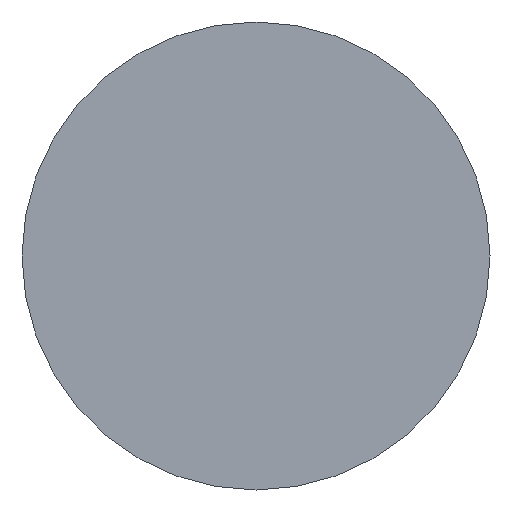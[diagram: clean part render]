
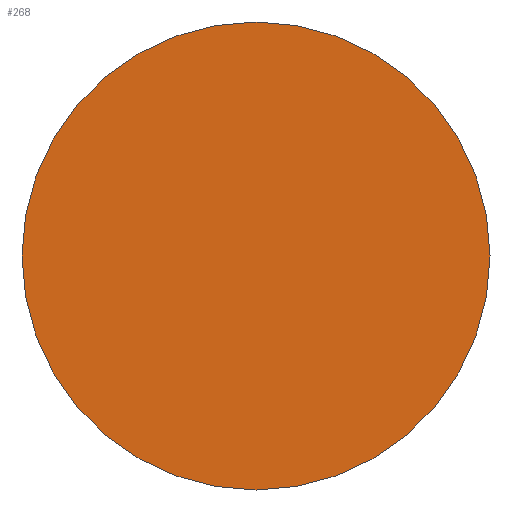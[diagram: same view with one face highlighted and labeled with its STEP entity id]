
A CAD part, front view. The second image highlights one B-rep face of the part: STEP entity #268.
In plain terms, the highlighted planar face has unit normal (0, -1, 0).
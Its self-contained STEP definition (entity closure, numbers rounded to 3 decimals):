
#25 = DIRECTION ( 'NONE',  ( 0., 1., 0. ) ) ;
#37 = CARTESIAN_POINT ( 'NONE',  ( 0., 0., 0. ) ) ;
#50 = CIRCLE ( 'NONE', #620, 34.75 ) ;
#87 = PLANE ( 'NONE',  #870 ) ;
#160 = ORIENTED_EDGE ( 'NONE', *, *, #1078, .F. ) ;
#163 = CIRCLE ( 'NONE', #219, 34.75 ) ;
#173 = CARTESIAN_POINT ( 'NONE',  ( 34.75, 0., 0. ) ) ;
#219 = AXIS2_PLACEMENT_3D ( 'NONE', #37, #25, #872 ) ;
#231 = CARTESIAN_POINT ( 'NONE',  ( 0., 0., 0. ) ) ;
#268 = ADVANCED_FACE ( 'NONE', ( #566 ), #87, .T. ) ;
#308 = EDGE_CURVE ( 'NONE', #891, #951, #50, .T. ) ;
#566 = FACE_OUTER_BOUND ( 'NONE', #1506, .T. ) ;
#571 = DIRECTION ( 'NONE',  ( 1., 0., 0. ) ) ;
#591 = DIRECTION ( 'NONE',  ( 0., 1., 0. ) ) ;
#620 = AXIS2_PLACEMENT_3D ( 'NONE', #231, #591, #1192 ) ;
#629 = ORIENTED_EDGE ( 'NONE', *, *, #308, .F. ) ;
#728 = CARTESIAN_POINT ( 'NONE',  ( -34.75, 0., 0. ) ) ;
#799 = CARTESIAN_POINT ( 'NONE',  ( 0., 0., 0. ) ) ;
#870 = AXIS2_PLACEMENT_3D ( 'NONE', #799, #916, #571 ) ;
#872 = DIRECTION ( 'NONE',  ( -1., 0., 0. ) ) ;
#891 = VERTEX_POINT ( 'NONE', #728 ) ;
#916 = DIRECTION ( 'NONE',  ( 0., -1., 0. ) ) ;
#951 = VERTEX_POINT ( 'NONE', #173 ) ;
#1078 = EDGE_CURVE ( 'NONE', #951, #891, #163, .T. ) ;
#1192 = DIRECTION ( 'NONE',  ( -1., 0., 0. ) ) ;
#1506 = EDGE_LOOP ( 'NONE', ( #629, #160 ) ) ;
